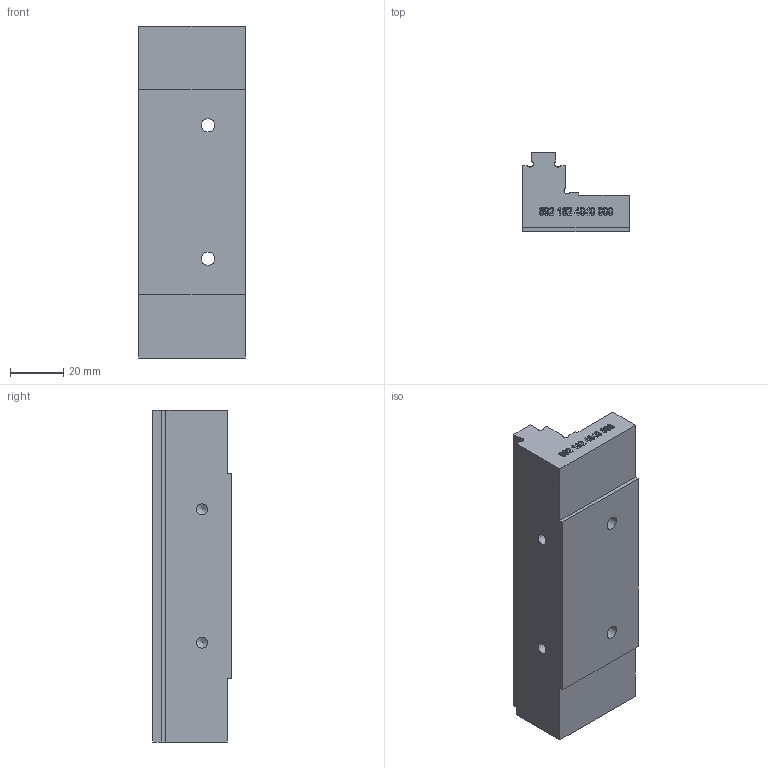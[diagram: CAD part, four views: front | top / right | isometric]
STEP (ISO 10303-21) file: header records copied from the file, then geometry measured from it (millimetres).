
FILE_DESCRIPTION (( 'STEP AP214' ), '1' );
FILE_NAME ('3D-6921624040000.STEP', '2023-12-04T08:43:37', ( '' ), ( '' ), 'SwSTEP 2.0', 'SolidWorks 2021', '' );
FILE_SCHEMA (( 'AUTOMOTIVE_DESIGN' ));
Length unit declared in the file: millimetre
Products named in the file (1): 3D-6921624040000
Bounding box: 40 x 29.5 x 124.4 mm (x, y, z)
Volume: 90704.3 mm3; surface area: 19918.7 mm2
Topology: 1 solids, 1 shells, 215 faces, 557 edges, 368 vertices
Faces by surface type: plane 104, bspline 96, cylinder 9, cone 6
Full cylindrical faces by diameter (mm): 4.2 x4, 5 x2
Entity records: 12213 total; most frequent: CARTESIAN_POINT 7533, ORIENTED_EDGE 1078, DIRECTION 607, EDGE_CURVE 539, VERTEX_POINT 362, LINE 327, VECTOR 327, EDGE_LOOP 255
